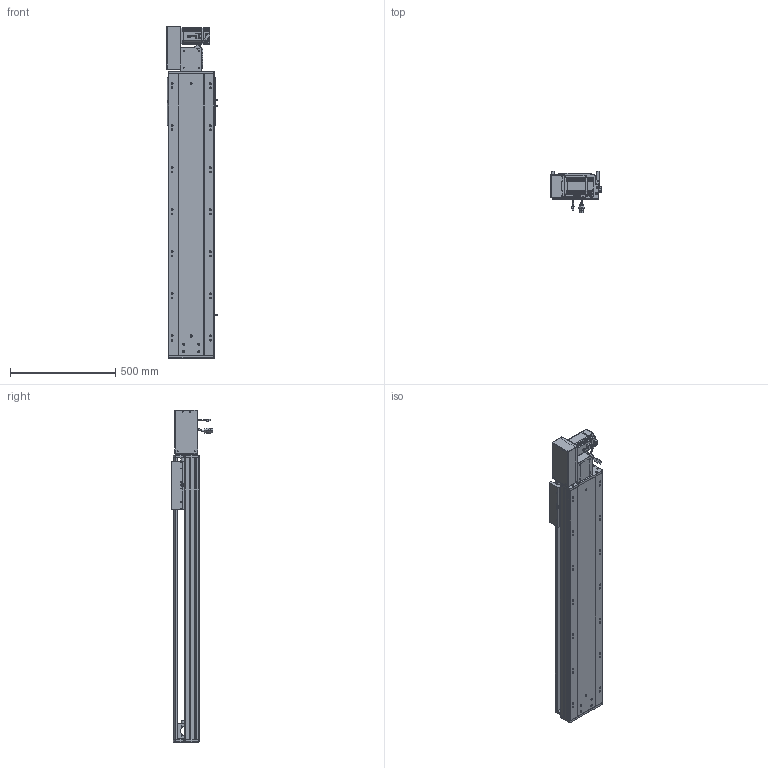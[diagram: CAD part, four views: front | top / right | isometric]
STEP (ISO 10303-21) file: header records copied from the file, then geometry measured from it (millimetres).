
FILE_DESCRIPTION (( 'STEP AP203' ), '1' );
FILE_NAME ('RY220-T-300-LK.SLDASM_1000.step', '2022-07-25T08:13:53', ( '' ), ( '' ), 'SwSTEP 2.0', 'SolidWorks 2016', '' );
FILE_SCHEMA (( 'CONFIG_CONTROL_DESIGN' ));
Length unit declared in the file: millimetre
Products named in the file (14): 怢湛750W_ECMA-CX0807ES; RY220-T-湍謫欶(鍼踢); RY220-俋离672覜茼んえ; 110A-T-肮祭謫釱傷裔; RY220翋肮祭謫釱; RY220-T菁釱-300_1000; 滅袉蝶18-15; RY220-T-300-LK.SLDASM_1000; RY220圉猾敕々湍臏賑輸; 覜茼ん672; RY220翋肮祭謫裔啣; RY220-T-蛌殏萇儂假蚾啣(750W); RY220-同步轮副支撑座6304×2; RY220-T-300-奻裔啣_1000
Assembly tree (18 placements, depth 2):
  RY220-T-300-LK.SLDASM_1000
    RY220-T菁釱-300_1000
    RY220翋肮祭謫釱
    覜茼ん672  x3
    RY220圉猾敕々湍臏賑輸
    RY220-T-300-奻裔啣_1000
    RY220-俋离672覜茼んえ
    滅袉蝶18-15  x3
    RY220翋肮祭謫裔啣  x2
    110A-T-肮祭謫釱傷裔
    怢湛750W_ECMA-CX0807ES
    RY220-T-湍謫欶(鍼踢)
    RY220-T-蛌殏萇儂假蚾啣(750W)
    RY220-同步轮副支撑座6304×2
Bounding box: 239.7 x 198.77 x 1579 mm (x, y, z)
Volume: 12262086.1 mm3; surface area: 3580032.9 mm2
Topology: 19 solids, 19 shells, 2624 faces, 7235 edges, 4590 vertices
Faces by surface type: cylinder 1224, plane 1069, cone 249, bspline 56, sphere 16, torus 10
Entity records: 87187 total; most frequent: CARTESIAN_POINT 24853, ORIENTED_EDGE 12954, DIRECTION 12236, EDGE_CURVE 6477, AXIS2_PLACEMENT_3D 4322, VERTEX_POINT 4214, LINE 3592, VECTOR 3592
